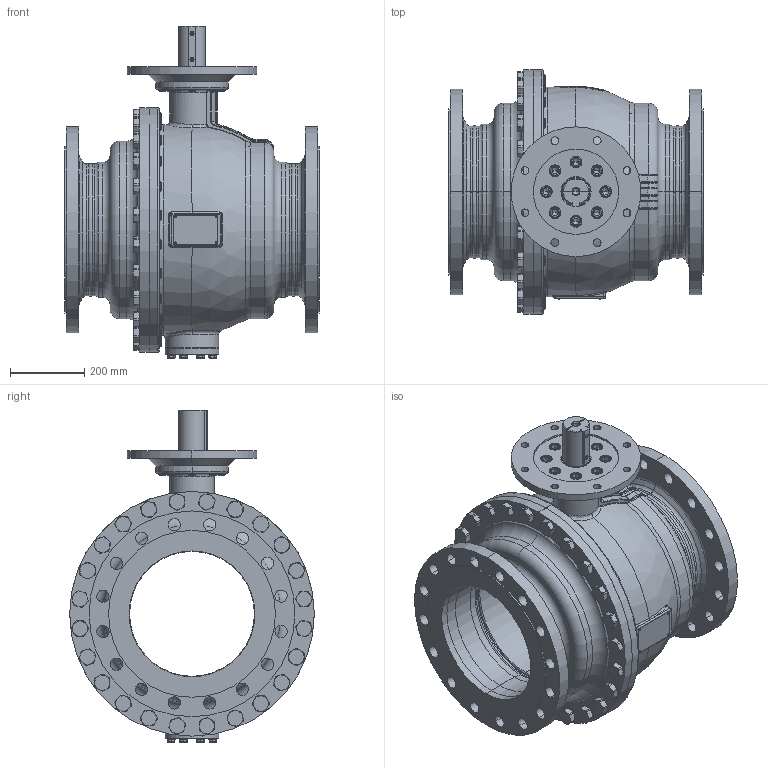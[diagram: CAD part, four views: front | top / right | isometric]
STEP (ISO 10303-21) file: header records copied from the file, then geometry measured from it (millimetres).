
FILE_DESCRIPTION((''),'2;1');
FILE_NAME('KHI-F_350_PN025-F30-P_SW0001','2026-02-05T15:43:31',('fischerkl'),('KLINGER'),'CREO PARAMETRIC BY PTC INC, 2023014','CREO PARAMETRIC BY PTC INC, 2023014','');
FILE_SCHEMA(('CONFIG_CONTROL_DESIGN'));
Products named in the file (1): KHI-F_350_PN025-F30-P_SW0001
Bounding box: 686 x 660 x 895.8 mm (x, y, z)
Volume: 46757795 mm3; surface area: 6082249.7 mm2
Topology: 1 solids, 4 shells, 3414 faces, 8622 edges, 5384 vertices
Faces by surface type: plane 1743, cylinder 799, cone 448, torus 295, bspline 99, sphere 30
Entity records: 144149 total; most frequent: CARTESIAN_POINT 62725, ORIENTED_EDGE 17192, DIRECTION 16862, EDGE_CURVE 8596, AXIS2_PLACEMENT_3D 6429, VERTEX_POINT 5384, VECTOR 4004, LINE 4004
